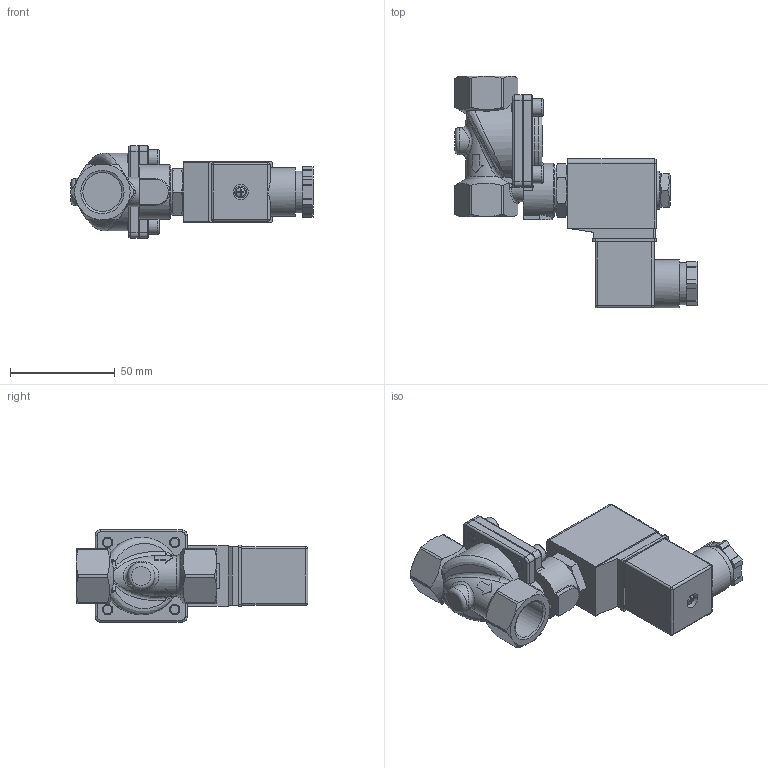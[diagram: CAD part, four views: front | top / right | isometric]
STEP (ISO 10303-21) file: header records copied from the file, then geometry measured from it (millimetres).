
FILE_DESCRIPTION((''),'2;1');
FILE_NAME('H:\Zeichnungen\STEP\MGMG2S12XX43015.stp','2009-10-09T08:59:32',('heidemann'),(''),'Autodesk Inventor 2010','Autodesk Inventor 2010','');
FILE_SCHEMA(('AUTOMOTIVE_DESIGN { 1 0 10303 214 1 1 1 1 }'));
Length unit declared in the file: millimetre
Products named in the file (10): MGMG2S12XX43015; GGG0015_15_0024; TA-N243-NC-30-2; SGXX43-S; DIN EN ISO 7045 H M3 x 30 - 4.8 - H; DIN 128 A10; DIN EN 28 675  (Feingewinde) M10 x 1; DIN 125-1  A Scheibe 41er Spule; DEQ0450_07_0025; DIN 912  (Regelgewinde) - ersetzt durch DIN EN ISO 4762 M5 x 10
Assembly tree (12 placements, depth 2):
  MGMG2S12XX43015
    GGG0015_15_0024
    TA-N243-NC-30-2
    SGXX43-S
    DIN EN ISO 7045 H M3 x 30 - 4.8 - H
    DIN 128 A10
    DIN EN 28 675  (Feingewinde) M10 x 1
    DIN 125-1  A Scheibe 41er Spule
    DEQ0450_07_0025
    DIN 912  (Regelgewinde) - ersetzt durch DIN EN ISO 4762 M5 x 10  x4
Bounding box: 115.45 x 110.5 x 44 mm (x, y, z)
Volume: 141685.9 mm3; surface area: 41351.4 mm2
Topology: 12 solids, 12 shells, 447 faces, 1093 edges, 691 vertices
Faces by surface type: plane 222, cylinder 102, cone 54, bspline 44, torus 20, sphere 5
Full cylindrical faces by diameter (mm): 2.729 x1, 3 x1, 5 x4, 5.5 x4, 7.3 x1, 7.8 x1, 8.5 x4, 9.73 x1, 10 x3, 11 x1, 13 x1, 13.4 x1, 14.4 x1, 14.75 x1, 17.75 x1, 20 x2, 20.5 x1, 21.8 x1, 22 x1, 23 x1, 26 x1
Entity records: 13921 total; most frequent: CARTESIAN_POINT 4608, ORIENTED_EDGE 1850, DIRECTION 1822, EDGE_CURVE 925, AXIS2_PLACEMENT_3D 697, VERTEX_POINT 621, EDGE_LOOP 510, VECTOR 428
